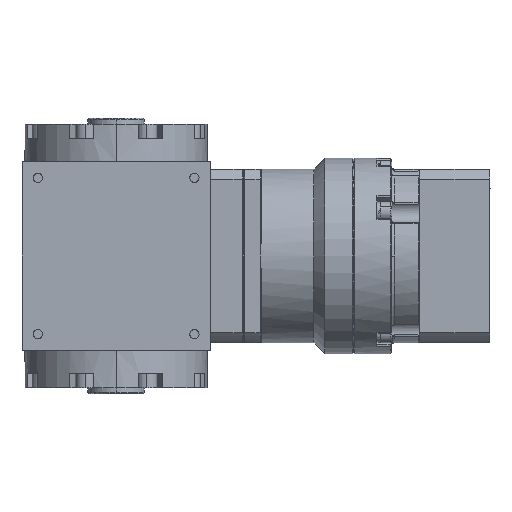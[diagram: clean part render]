
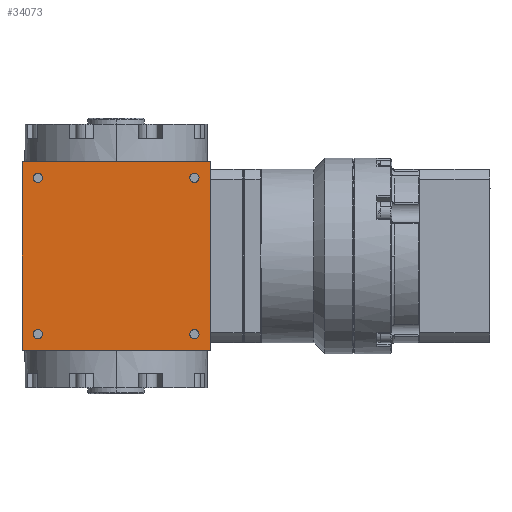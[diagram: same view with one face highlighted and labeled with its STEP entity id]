
A CAD part, left-side view. The second image highlights one B-rep face of the part: STEP entity #34073.
In plain terms, the highlighted planar face has unit normal (-1, 0, 0).
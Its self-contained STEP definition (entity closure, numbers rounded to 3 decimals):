
#591 = AXIS2_PLACEMENT_3D ( 'NONE', #36820, #26280, #40270 ) ;
#673 = DIRECTION ( 'NONE',  ( 0., 0., 1. ) ) ;
#1382 = ORIENTED_EDGE ( 'NONE', *, *, #22103, .F. ) ;
#1936 = VERTEX_POINT ( 'NONE', #11243 ) ;
#2112 = CARTESIAN_POINT ( 'NONE',  ( -32.5, 32.5, 32.5 ) ) ;
#2489 = VECTOR ( 'NONE', #27631, 1000. ) ;
#3239 = EDGE_CURVE ( 'NONE', #1936, #20981, #8011, .T. ) ;
#3332 = DIRECTION ( 'NONE',  ( 0., 0., 1. ) ) ;
#3350 = CARTESIAN_POINT ( 'NONE',  ( -32.5, 27., 27. ) ) ;
#3720 = CARTESIAN_POINT ( 'NONE',  ( -32.5, 27., -28.6 ) ) ;
#4184 = CARTESIAN_POINT ( 'NONE',  ( -32.5, 27., -25.4 ) ) ;
#4856 = CARTESIAN_POINT ( 'NONE',  ( -32.5, 27., 25.4 ) ) ;
#4952 = DIRECTION ( 'NONE',  ( 0., 0., 1. ) ) ;
#5512 = VERTEX_POINT ( 'NONE', #31516 ) ;
#5994 = DIRECTION ( 'NONE',  ( -1., 0., 0. ) ) ;
#7317 = EDGE_LOOP ( 'NONE', ( #41136, #15190 ) ) ;
#7583 = DIRECTION ( 'NONE',  ( 0., 0., -1. ) ) ;
#7621 = EDGE_LOOP ( 'NONE', ( #18313, #29471 ) ) ;
#7751 = CARTESIAN_POINT ( 'NONE',  ( -32.5, -27., 25.4 ) ) ;
#8002 = ORIENTED_EDGE ( 'NONE', *, *, #32061, .T. ) ;
#8011 = CIRCLE ( 'NONE', #29278, 1.6 ) ;
#8326 = DIRECTION ( 'NONE',  ( 1., 0., 0. ) ) ;
#8391 = CARTESIAN_POINT ( 'NONE',  ( -32.5, 27., 27. ) ) ;
#8740 = ORIENTED_EDGE ( 'NONE', *, *, #22545, .T. ) ;
#9286 = EDGE_CURVE ( 'NONE', #42571, #34634, #23722, .T. ) ;
#9348 = VECTOR ( 'NONE', #7583, 1000. ) ;
#9577 = AXIS2_PLACEMENT_3D ( 'NONE', #37504, #9735, #3332 ) ;
#9735 = DIRECTION ( 'NONE',  ( 1., 0., 0. ) ) ;
#10044 = DIRECTION ( 'NONE',  ( 0., 0., 1. ) ) ;
#10554 = DIRECTION ( 'NONE',  ( 1., 0., 0. ) ) ;
#10647 = VECTOR ( 'NONE', #12103, 1000. ) ;
#11243 = CARTESIAN_POINT ( 'NONE',  ( -32.5, -27., 28.6 ) ) ;
#12103 = DIRECTION ( 'NONE',  ( 0., 0., 1. ) ) ;
#12458 = AXIS2_PLACEMENT_3D ( 'NONE', #3350, #23362, #37354 ) ;
#12659 = DIRECTION ( 'NONE',  ( 0., 0., 1. ) ) ;
#14729 = AXIS2_PLACEMENT_3D ( 'NONE', #44076, #43020, #12659 ) ;
#15190 = ORIENTED_EDGE ( 'NONE', *, *, #15686, .T. ) ;
#15682 = EDGE_CURVE ( 'NONE', #40315, #22934, #38187, .T. ) ;
#15686 = EDGE_CURVE ( 'NONE', #5512, #33300, #33056, .T. ) ;
#16134 = VERTEX_POINT ( 'NONE', #4184 ) ;
#17718 = VERTEX_POINT ( 'NONE', #3720 ) ;
#17921 = CARTESIAN_POINT ( 'NONE',  ( -32.5, -27., -27. ) ) ;
#18079 = EDGE_CURVE ( 'NONE', #33300, #5512, #24292, .T. ) ;
#18313 = ORIENTED_EDGE ( 'NONE', *, *, #22631, .T. ) ;
#19149 = VERTEX_POINT ( 'NONE', #44117 ) ;
#19213 = AXIS2_PLACEMENT_3D ( 'NONE', #17921, #10554, #673 ) ;
#20380 = CIRCLE ( 'NONE', #591, 1.6 ) ;
#20538 = ORIENTED_EDGE ( 'NONE', *, *, #37918, .F. ) ;
#20981 = VERTEX_POINT ( 'NONE', #7751 ) ;
#22103 = EDGE_CURVE ( 'NONE', #22934, #34634, #35806, .T. ) ;
#22545 = EDGE_CURVE ( 'NONE', #19149, #30402, #24033, .T. ) ;
#22631 = EDGE_CURVE ( 'NONE', #16134, #17718, #20380, .T. ) ;
#22934 = VERTEX_POINT ( 'NONE', #35647 ) ;
#23362 = DIRECTION ( 'NONE',  ( 1., 0., 0. ) ) ;
#23480 = ORIENTED_EDGE ( 'NONE', *, *, #15682, .F. ) ;
#23722 = LINE ( 'NONE', #33157, #2489 ) ;
#24033 = CIRCLE ( 'NONE', #29197, 1.6 ) ;
#24144 = CIRCLE ( 'NONE', #14729, 1.6 ) ;
#24292 = CIRCLE ( 'NONE', #19213, 1.6 ) ;
#25251 = CARTESIAN_POINT ( 'NONE',  ( -32.5, -32.5, -32.5 ) ) ;
#26005 = CARTESIAN_POINT ( 'NONE',  ( -32.5, -27., 27. ) ) ;
#26280 = DIRECTION ( 'NONE',  ( 1., 0., 0. ) ) ;
#26390 = CIRCLE ( 'NONE', #12458, 1.6 ) ;
#27274 = CARTESIAN_POINT ( 'NONE',  ( -32.5, -27., -25.4 ) ) ;
#27572 = FACE_BOUND ( 'NONE', #7317, .T. ) ;
#27631 = DIRECTION ( 'NONE',  ( 0., -1., 0. ) ) ;
#28354 = AXIS2_PLACEMENT_3D ( 'NONE', #31372, #34832, #10044 ) ;
#29197 = AXIS2_PLACEMENT_3D ( 'NONE', #8391, #36390, #4952 ) ;
#29278 = AXIS2_PLACEMENT_3D ( 'NONE', #26005, #8326, #32653 ) ;
#29471 = ORIENTED_EDGE ( 'NONE', *, *, #33900, .T. ) ;
#30321 = FACE_BOUND ( 'NONE', #39395, .T. ) ;
#30402 = VERTEX_POINT ( 'NONE', #4856 ) ;
#30993 = FACE_BOUND ( 'NONE', #37581, .T. ) ;
#31372 = CARTESIAN_POINT ( 'NONE',  ( -32.5, -27., 27. ) ) ;
#31516 = CARTESIAN_POINT ( 'NONE',  ( -32.5, -27., -28.6 ) ) ;
#32015 = CIRCLE ( 'NONE', #28354, 1.6 ) ;
#32061 = EDGE_CURVE ( 'NONE', #30402, #19149, #26390, .T. ) ;
#32653 = DIRECTION ( 'NONE',  ( 0., 0., 1. ) ) ;
#33056 = CIRCLE ( 'NONE', #9577, 1.6 ) ;
#33157 = CARTESIAN_POINT ( 'NONE',  ( -32.5, 0., -32.5 ) ) ;
#33198 = CARTESIAN_POINT ( 'NONE',  ( -32.5, 32.5, -32.5 ) ) ;
#33300 = VERTEX_POINT ( 'NONE', #27274 ) ;
#33900 = EDGE_CURVE ( 'NONE', #17718, #16134, #24144, .T. ) ;
#34073 = ADVANCED_FACE ( 'NONE', ( #38114, #30993, #30321, #27572, #44543 ), #40878, .T. ) ;
#34079 = DIRECTION ( 'NONE',  ( 0., -1., 0. ) ) ;
#34634 = VERTEX_POINT ( 'NONE', #38276 ) ;
#34832 = DIRECTION ( 'NONE',  ( 1., 0., 0. ) ) ;
#35647 = CARTESIAN_POINT ( 'NONE',  ( -32.5, -32.5, 32.5 ) ) ;
#35806 = LINE ( 'NONE', #25251, #9348 ) ;
#35997 = VECTOR ( 'NONE', #34079, 1000. ) ;
#36368 = EDGE_CURVE ( 'NONE', #20981, #1936, #32015, .T. ) ;
#36390 = DIRECTION ( 'NONE',  ( 1., 0., 0. ) ) ;
#36820 = CARTESIAN_POINT ( 'NONE',  ( -32.5, 27., -27. ) ) ;
#37354 = DIRECTION ( 'NONE',  ( 0., 0., 1. ) ) ;
#37424 = DIRECTION ( 'NONE',  ( 0., -1., 0. ) ) ;
#37504 = CARTESIAN_POINT ( 'NONE',  ( -32.5, -27., -27. ) ) ;
#37581 = EDGE_LOOP ( 'NONE', ( #8740, #8002 ) ) ;
#37918 = EDGE_CURVE ( 'NONE', #42571, #40315, #43522, .T. ) ;
#38114 = FACE_OUTER_BOUND ( 'NONE', #40564, .T. ) ;
#38187 = LINE ( 'NONE', #40950, #35997 ) ;
#38276 = CARTESIAN_POINT ( 'NONE',  ( -32.5, -32.5, -32.5 ) ) ;
#39395 = EDGE_LOOP ( 'NONE', ( #44656, #44505 ) ) ;
#40270 = DIRECTION ( 'NONE',  ( 0., 0., 1. ) ) ;
#40315 = VERTEX_POINT ( 'NONE', #2112 ) ;
#40564 = EDGE_LOOP ( 'NONE', ( #20538, #44875, #1382, #23480 ) ) ;
#40878 = PLANE ( 'NONE',  #41828 ) ;
#40950 = CARTESIAN_POINT ( 'NONE',  ( -32.5, 0., 32.5 ) ) ;
#41136 = ORIENTED_EDGE ( 'NONE', *, *, #18079, .T. ) ;
#41548 = CARTESIAN_POINT ( 'NONE',  ( -32.5, 32.5, -32.5 ) ) ;
#41828 = AXIS2_PLACEMENT_3D ( 'NONE', #41548, #5994, #37424 ) ;
#42571 = VERTEX_POINT ( 'NONE', #45127 ) ;
#43020 = DIRECTION ( 'NONE',  ( 1., 0., 0. ) ) ;
#43522 = LINE ( 'NONE', #33198, #10647 ) ;
#44076 = CARTESIAN_POINT ( 'NONE',  ( -32.5, 27., -27. ) ) ;
#44117 = CARTESIAN_POINT ( 'NONE',  ( -32.5, 27., 28.6 ) ) ;
#44505 = ORIENTED_EDGE ( 'NONE', *, *, #36368, .T. ) ;
#44543 = FACE_BOUND ( 'NONE', #7621, .T. ) ;
#44656 = ORIENTED_EDGE ( 'NONE', *, *, #3239, .T. ) ;
#44875 = ORIENTED_EDGE ( 'NONE', *, *, #9286, .T. ) ;
#45127 = CARTESIAN_POINT ( 'NONE',  ( -32.5, 32.5, -32.5 ) ) ;
